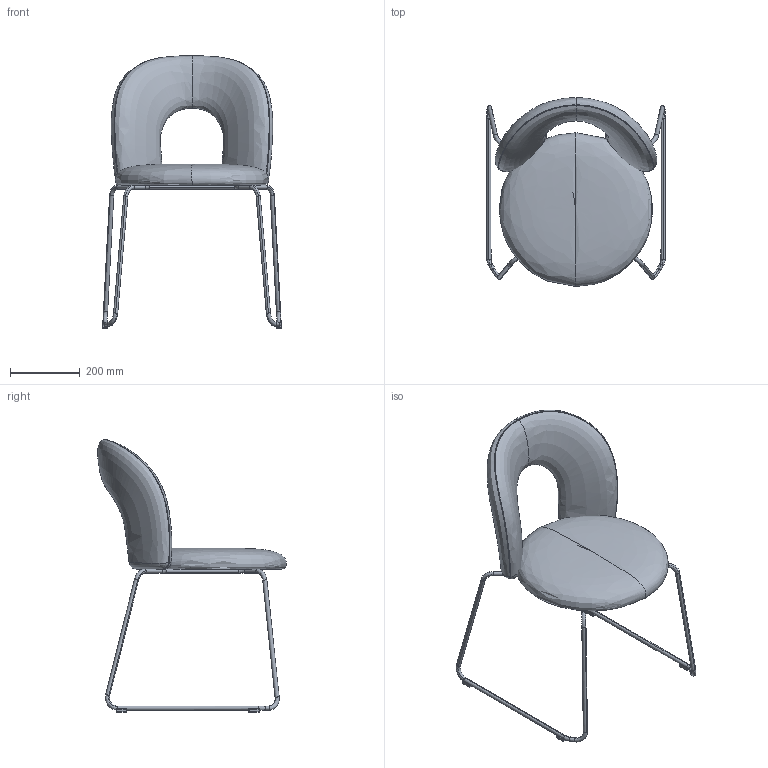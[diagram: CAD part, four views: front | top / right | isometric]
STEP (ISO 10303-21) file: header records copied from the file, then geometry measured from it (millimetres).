
FILE_DESCRIPTION(/* description */ (''),/* implementation_level */ '2;1');
FILE_NAME(/* name */ 'Paulin_SL_PabloReganoStudio',/* time_stamp */ '2026-04-02T07:29:23+02:00',/* author */ (''),/* organization */ (''),/* preprocessor_version */ 'ST-DEVELOPER v19.2',/* originating_system */ 'Rhino 8.5',/* authorisation */ '');
FILE_SCHEMA (('AP242_MANAGED_MODEL_BASED_3D_ENGINEERING_MIM_LF { 1 0 10303 442 3 1 4 }'));
Length unit declared in the file: millimetre
Products named in the file (1): Document
Bounding box: 512.75 x 540.22 x 779.86 mm (x, y, z)
Volume: 7597652 mm3; surface area: 1127187.7 mm2
Topology: 1 solids, 188 shells, 218 faces, 904 edges, 824 vertices
Faces by surface type: bspline 100, cylinder 90, plane 28
Entity records: 39690 total; most frequent: CARTESIAN_POINT 33307, ORIENTED_EDGE 956, EDGE_CURVE 894, DIRECTION 828, VERTEX_POINT 824, AXIS2_PLACEMENT_3D 473, TRIMMED_CURVE 352, CIRCLE 352
